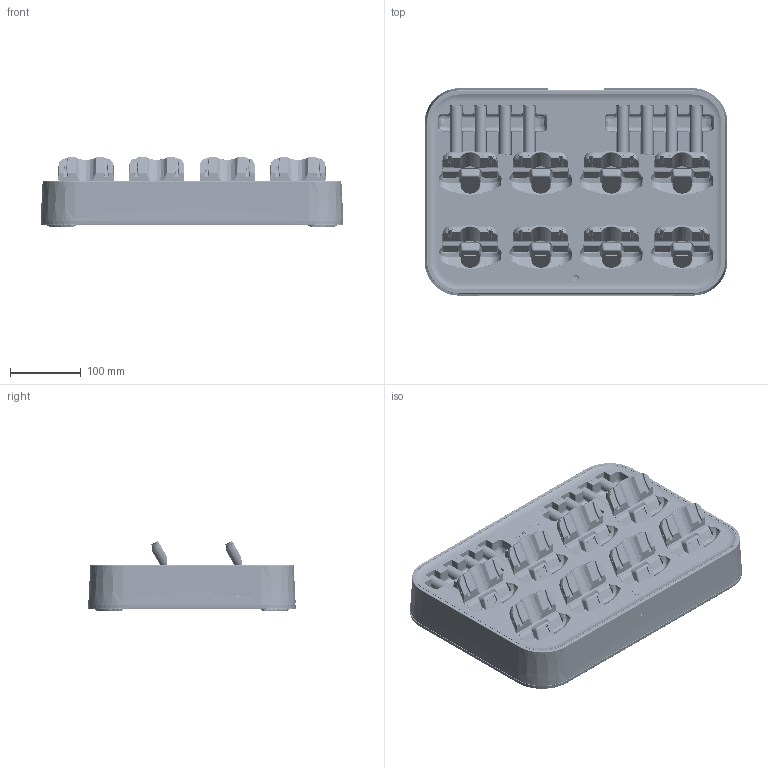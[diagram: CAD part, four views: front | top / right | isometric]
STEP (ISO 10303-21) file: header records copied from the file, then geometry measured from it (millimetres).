
FILE_DESCRIPTION((''),'2;1');
FILE_NAME('LEVE0CFCAC1AR8BR_ASM','2024-03-30T17:36:14',('DELL'),(''),'CREO PARAMETRIC BY PTC INC, 2022073','CREO PARAMETRIC BY PTC INC, 2022073','');
FILE_SCHEMA(('CONFIG_CONTROL_DESIGN'));
Products named in the file (181): BREP_1-2141; BREP_1-2147; LEVE0CFCAC1AR8BR_100; TABS_MIRROR; COMBINE1-2278; COMBINE1-2280; COMBINE1-2289; COMBINE1-2293; COMBINE1-2298; COMBINE1-2301; COMBINE1-2305; COMBINE1-2316; LEVE0CFCAC1AR8BR_122; LEVE0CFCAC1AR8BR_123; LEVE0CFCAC1AR8BR_124; LEVE0CFCAC1AR8BR_125; LEVE0CFCAC1AR8BR_126; LEVE0CFCAC1AR8BR_127; LEVE0CFCAC1AR8BR_128; LEVE0CFCAC1AR8BR_129; LEVE0CFCAC1AR8BR_89; LEVE0CFCAC1AR8BR_90; LEVE0CFCAC1AR8BR_91; LEVE0CFCAC1AR8BR_92; LEVE0CFCAC1AR8BR_94; LEVE0CFCAC1AR8BR_95; LEVE0CFCAC1AR8BR_97; LEVE0CFCAC1AR8BR_98; LEVE0CFCAC1AR8BR_99; LEVE0CFCAC1AR8BR_102; LEVE0CFCAC1AR8BR_103; LEVE0CFCAC1AR8BR_105; LEVE0CFCAC1AR8BR_107; LEVE0CFCAC1AR8BR_108; LEVE0CFCAC1AR8BR_109; LEVE0CFCAC1AR8BR_110; LEVE0CFCAC1AR8BR_113; LEVE0CFCAC1AR8BR_114; LEVE0CFCAC1AR8BR_115; LEVE0CFCAC1AR8BR_116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
Assembly tree (180 placements, depth 3):
  LEVE0CFCAC1AR8BR_ASM
    BREP_1-2141
    BREP_1-2147
    MAIN_PCBA_ASM
      LEVE0CFCAC1AR8BR_100
      TABS_MIRROR
      COMBINE1-2278
      COMBINE1-2280
      COMBINE1-2289
      COMBINE1-2293
      COMBINE1-2298
      COMBINE1-2301
      COMBINE1-2305
      COMBINE1-2316
      LEVE0CFCAC1AR8BR_122
      LEVE0CFCAC1AR8BR_123
      LEVE0CFCAC1AR8BR_124
      LEVE0CFCAC1AR8BR_125
      LEVE0CFCAC1AR8BR_126
      LEVE0CFCAC1AR8BR_127
      LEVE0CFCAC1AR8BR_128
      LEVE0CFCAC1AR8BR_129
      LEVE0CFCAC1AR8BR_89
      LEVE0CFCAC1AR8BR_90
      LEVE0CFCAC1AR8BR_91
      LEVE0CFCAC1AR8BR_92
      LEVE0CFCAC1AR8BR_94
      LEVE0CFCAC1AR8BR_95
      LEVE0CFCAC1AR8BR_97
      LEVE0CFCAC1AR8BR_98
      LEVE0CFCAC1AR8BR_99
      LEVE0CFCAC1AR8BR_102
      LEVE0CFCAC1AR8BR_103
      LEVE0CFCAC1AR8BR_105
      LEVE0CFCAC1AR8BR_107
      LEVE0CFCAC1AR8BR_108
      LEVE0CFCAC1AR8BR_109
      LEVE0CFCAC1AR8BR_110
      LEVE0CFCAC1AR8BR_113
      LEVE0CFCAC1AR8BR_114
      LEVE0CFCAC1AR8BR_115
      LEVE0CFCAC1AR8BR_116
      LEVE0CFCAC1AR8BR_118
      LEVE0CFCAC1AR8BR_119
      LEVE0CFCAC1AR8BR_120
      LEVE0CFCAC1AR8BR_121
      LEVE0CFCAC1AR8BR_93
      LEVE0CFCAC1AR8BR_96
      LEVE0CFCAC1AR8BR_101
      LEVE0CFCAC1AR8BR_104
      LEVE0CFCAC1AR8BR_106
      LEVE0CFCAC1AR8BR_111
      LEVE0CFCAC1AR8BR_112
      LEVE0CFCAC1AR8BR_117
      COMBINE1-2274
      COMBINE1-2276
      COMBINE1-2308
      COMBINE1-2309
      COMBINE1-2314
      LEVE0CFCAC1AR8BR_1
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Bounding box: 428.69 x 293.69 x 98.47 mm (x, y, z)
Volume: 914943.3 mm3; surface area: 1619902 mm2
Topology: 178 solids, 186 shells, 35921 faces, 102673 edges, 66800 vertices
Faces by surface type: plane 21012, cylinder 7877, bspline 4193, cone 1298, torus 671, extrusion 429, sphere 391, revolution 50
Entity records: 1599616 total; most frequent: CARTESIAN_POINT 703453, ORIENTED_EDGE 204294, DIRECTION 160503, EDGE_CURVE 102184, VERTEX_POINT 66800, VECTOR 64095, LINE 63666, AXIS2_PLACEMENT_3D 48179
